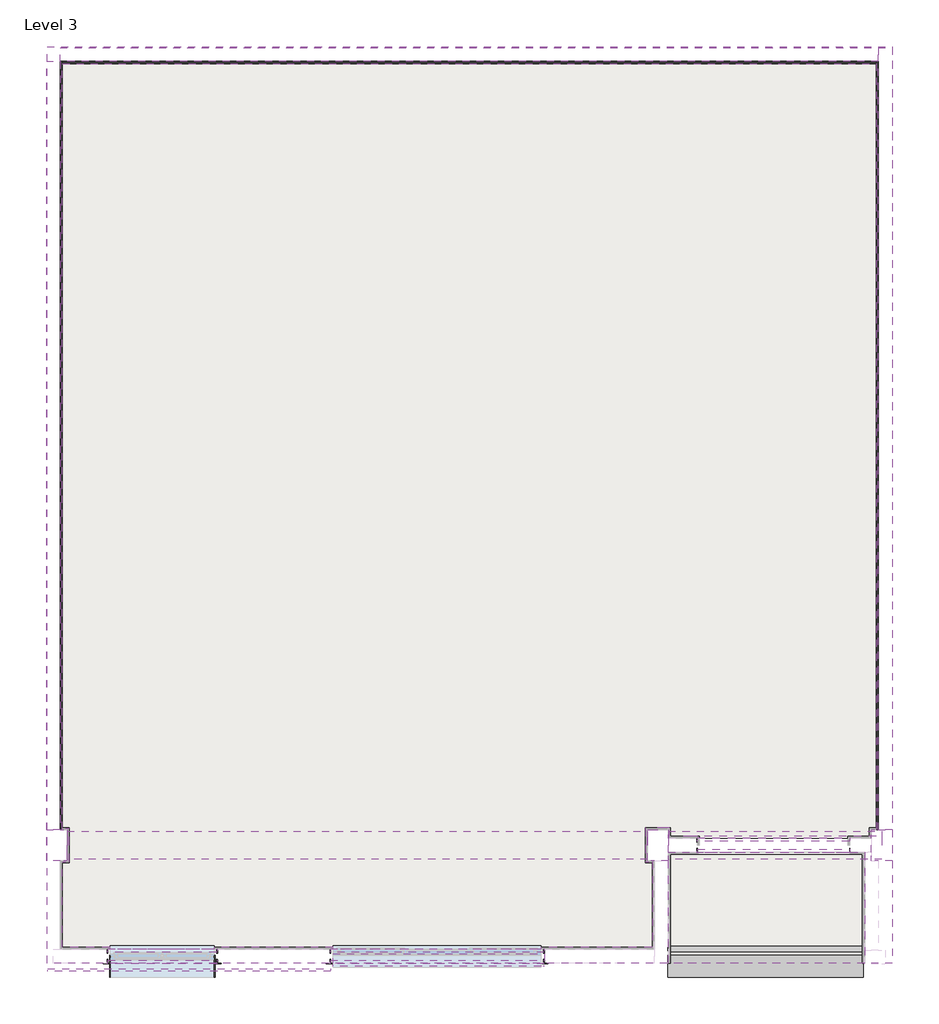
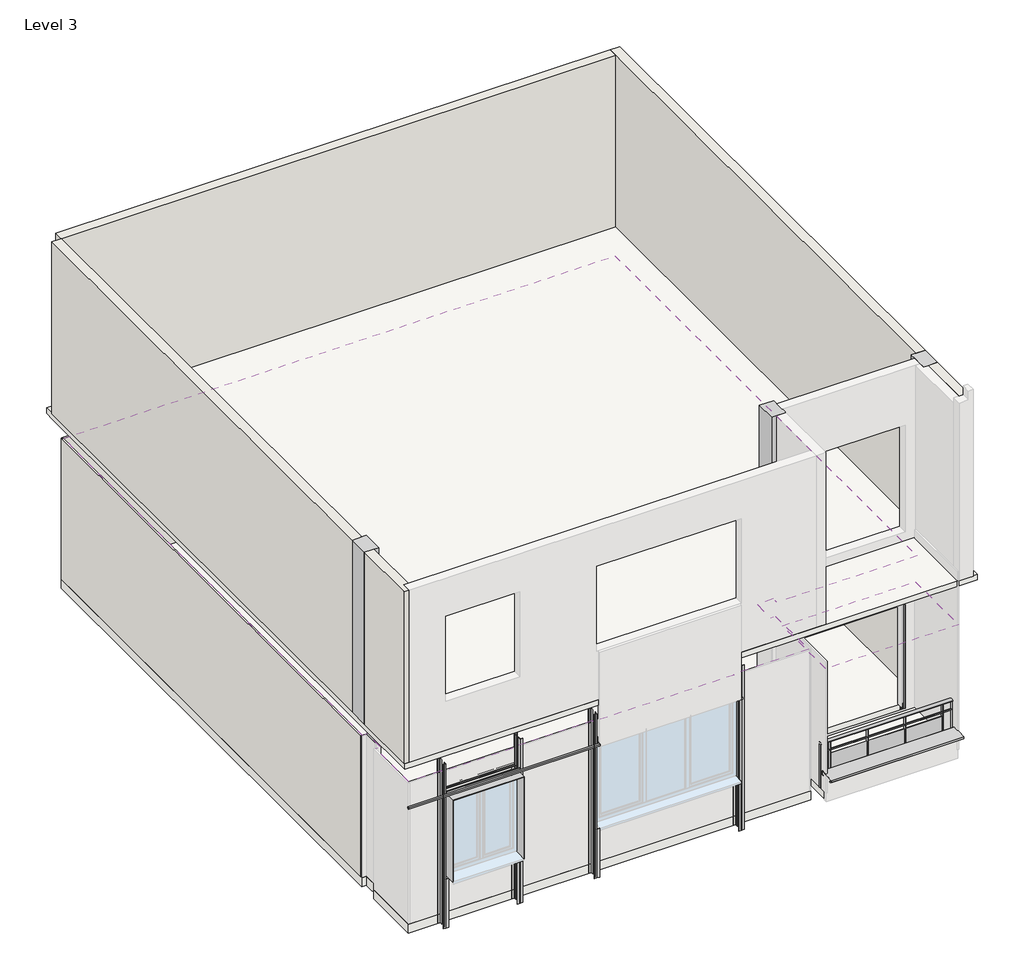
# One storey, part 2 of 2: 20 beams, 6 walls, 4 slabs, 3 columns, 2 coverings, 1 proxy, 1 railing.
"""IFC4 building model written with IfcOpenShell, lengths in millimetres."""

import ifcopenshell
import ifcopenshell.guid

model = None  # the IFC model being written
_history = None  # IfcOwnerHistory: only IFC2X3 demands one
_inside = {}  # id of a spatial element -> (the spatial element, [elements in it])
_under = {}  # id of a project, library or spatial element -> (it, [spatial elements below it])
_declared = {}  # id of a project -> (the project, [libraries it declares])
_typed = {}  # id of a type object -> (the type object, [elements of that type])
_made_of = {}  # id of a material, layer set ... -> (it, [elements and type objects made of it])


def new_model(schema):
    """Start an empty IFC model of exactly this schema.

    Asked for "IFC4X3", IfcOpenShell would pick the latest addendum, in which some entities
    have other attributes; the version numbers below select the first issue.
    IFC2X3 requires an IfcOwnerHistory on every rooted entity: one is made here for all.
    """
    global model, _history
    if schema == "IFC4X3":
        model = ifcopenshell.file(schema_version=(4, 3, 0, 0))
    else:
        model = ifcopenshell.file(schema=schema)
    _inside.clear()
    _under.clear()
    _declared.clear()
    _typed.clear()
    _made_of.clear()
    _history = None
    if model.schema == "IFC2X3":
        org = make("IfcOrganization", Name="unknown")
        user = make(
            "IfcPersonAndOrganization",
            ThePerson=make("IfcPerson", FamilyName="unknown"),
            TheOrganization=org,
        )
        app = make(
            "IfcApplication",
            ApplicationDeveloper=org,
            Version="unknown",
            ApplicationFullName="unknown",
            ApplicationIdentifier="unknown",
        )
        _history = make(
            "IfcOwnerHistory",
            OwningUser=user,
            OwningApplication=app,
            ChangeAction="ADDED",
            CreationDate=0,
        )
    return model


def make(cls, **values):
    """One entity of the class cls with the attributes given. An attribute that is None is left unset."""
    return model.create_entity(
        cls, **{name: value for name, value in values.items() if value is not None}
    )


def rooted(cls, **values):
    """An entity with a GlobalId (a new one), such as an element, a storey or a relation."""
    return make(cls, GlobalId=ifcopenshell.guid.new(), OwnerHistory=_history, **values)


def si_unit(unit_type, name, prefix=None):
    """IfcSIUnit, for example si_unit("LENGTHUNIT", "METRE", prefix="MILLI")."""
    return make("IfcSIUnit", UnitType=unit_type, Prefix=prefix, Name=name)


def assignment(units):
    """IfcUnitAssignment: the units of a project."""
    return None if units is None else make("IfcUnitAssignment", Units=units)


def point(xyz):
    """IfcCartesianPoint."""
    return None if xyz is None else make("IfcCartesianPoint", Coordinates=xyz)


def direction(xyz):
    """IfcDirection."""
    return None if xyz is None else make("IfcDirection", DirectionRatios=xyz)


def frame(location, z_axis=None, x_axis=None):
    """IfcAxis2Placement3D, a coordinate frame: its origin and axes. An axis left out is left unset."""
    return make(
        "IfcAxis2Placement3D",
        Location=point(location),
        Axis=direction(z_axis),
        RefDirection=direction(x_axis),
    )


def frame_2d(location, x_axis=None):
    """IfcAxis2Placement2D, a coordinate frame in the plane: its origin and x axis."""
    return make(
        "IfcAxis2Placement2D", Location=point(location), RefDirection=direction(x_axis)
    )


def origin():
    """The frame at (0, 0, 0) with its axes left unset."""
    return frame((0.0, 0.0, 0.0))


def origin_with_axes():
    """The frame at (0, 0, 0) with the z axis (0, 0, 1) and the x axis (1, 0, 0) written out."""
    return frame((0.0, 0.0, 0.0), z_axis=(0.0, 0.0, 1.0), x_axis=(1.0, 0.0, 0.0))


def place(relative_to, where):
    """IfcLocalPlacement: puts the frame where relative to a parent placement (None: the world)."""
    return make(
        "IfcLocalPlacement", PlacementRelTo=relative_to, RelativePlacement=where
    )


def context(
    kind, dimensions, precision=None, world=None, true_north=None, identifier=None
):
    """IfcGeometricRepresentationContext, for example the 3D "Model" context."""
    return make(
        "IfcGeometricRepresentationContext",
        ContextIdentifier=identifier,
        ContextType=kind,
        CoordinateSpaceDimension=dimensions,
        Precision=precision,
        WorldCoordinateSystem=world,
        TrueNorth=true_north,
    )


def project(units=None, contexts=None):
    """IfcProject with its units and contexts."""
    return rooted(
        "IfcProject",
        Name="project",
        RepresentationContexts=contexts,
        UnitsInContext=assignment(units),
    )


def spatial(cls, under=None, at=None, **own):
    """A site, building, storey or space (cls), placed at a placement, below another one or the project."""
    s = rooted(cls, ObjectPlacement=at, **own)
    if under is not None:
        _under.setdefault(under.id(), (under, []))[1].append(s)
    return s


def polyline(points):
    """IfcPolyline through the points."""
    return make("IfcPolyline", Points=[point(p) for p in points])


def circle_curve(where, radius):
    """IfcCircle in the frame where."""
    return make("IfcCircle", Position=where, Radius=radius)


def ellipse_curve(where, semi_axis1, semi_axis2):
    """IfcEllipse in the frame where."""
    return make(
        "IfcEllipse", Position=where, SemiAxis1=semi_axis1, SemiAxis2=semi_axis2
    )


def trimmed(basis, trim1, trim2, sense, master):
    """IfcTrimmedCurve: the piece of a basis curve between two trims."""
    return make(
        "IfcTrimmedCurve",
        BasisCurve=basis,
        Trim1=trim1,
        Trim2=trim2,
        SenseAgreement=sense,
        MasterRepresentation=master,
    )


def segment(curve, same_sense, transition):
    """IfcCompositeCurveSegment."""
    return make(
        "IfcCompositeCurveSegment",
        Transition=transition,
        SameSense=same_sense,
        ParentCurve=curve,
    )


def composite_curve(segments, self_intersect=None):
    """IfcCompositeCurve: segments joined end to end."""
    return make("IfcCompositeCurve", Segments=segments, SelfIntersect=self_intersect)


def outline(outer, holes=None, kind="AREA"):
    """IfcArbitraryClosedProfileDef: a profile drawn as a closed curve; with holes, ...WithVoids."""
    if holes is None:
        return make("IfcArbitraryClosedProfileDef", ProfileType=kind, OuterCurve=outer)
    return make(
        "IfcArbitraryProfileDefWithVoids",
        ProfileType=kind,
        OuterCurve=outer,
        InnerCurves=holes,
    )


def extrude(swept, where, along, depth):
    """IfcExtrudedAreaSolid: the profile swept, set in the frame where, extruded along a direction by depth."""
    return make(
        "IfcExtrudedAreaSolid",
        SweptArea=swept,
        Position=where,
        ExtrudedDirection=direction(along),
        Depth=depth,
    )


def faces_of(points, faces, orient=None, outer=None):
    """IfcFace entities. A face is a list of loops; a loop is a list of indices into points, from 0.

    orient and outer hold one flag for each loop. By default every Orientation is true, the
    first loop of a face is its IfcFaceOuterBound and the others are IfcFaceBound.
    """
    made = []
    for i, loops in enumerate(faces):
        bounds = []
        for j, loop in enumerate(loops):
            is_outer = j == 0 if outer is None else outer[i][j]
            bounds.append(
                make(
                    "IfcFaceOuterBound" if is_outer else "IfcFaceBound",
                    Bound=make("IfcPolyLoop", Polygon=[points[k] for k in loop]),
                    Orientation=True if orient is None else orient[i][j],
                )
            )
        made.append(make("IfcFace", Bounds=bounds))
    return made


def faceted_brep(points, faces, orient=None, outer=None, voids=None):
    """IfcFacetedBrep: a solid bounded by flat faces; with voids (closed shells), ...WithVoids."""
    shared = [point(p) for p in points]
    hull = make("IfcClosedShell", CfsFaces=faces_of(shared, faces, orient, outer))
    if voids is None:
        return make("IfcFacetedBrep", Outer=hull)
    return make(
        "IfcFacetedBrepWithVoids",
        Outer=hull,
        Voids=[
            make(cls, CfsFaces=faces_of(shared, fs, o, b)) for cls, fs, o, b in voids
        ],
    )


def shape(context_of_items, identifier, shape_type, items):
    """IfcShapeRepresentation: the items that make up one representation, for example the "Body"."""
    return make(
        "IfcShapeRepresentation",
        ContextOfItems=context_of_items,
        RepresentationIdentifier=identifier,
        RepresentationType=shape_type,
        Items=items,
    )


def source(mapping_origin, context_of_items, identifier, shape_type, items):
    """IfcRepresentationMap: a shape defined once, which mapped items show again and again."""
    return make(
        "IfcRepresentationMap",
        MappingOrigin=mapping_origin,
        MappedRepresentation=shape(context_of_items, identifier, shape_type, items),
    )


def transform(
    local_origin,
    x_axis=None,
    y_axis=None,
    z_axis=None,
    scale=None,
    scale2=None,
    scale3=None,
    uniform=True,
):
    """IfcCartesianTransformationOperator3D, or its non-uniform kind. x_axis, y_axis, z_axis: its Axis1, 2, 3."""
    if uniform:
        return make(
            "IfcCartesianTransformationOperator3D",
            Axis1=direction(x_axis),
            Axis2=direction(y_axis),
            LocalOrigin=point(local_origin),
            Scale=scale,
            Axis3=direction(z_axis),
        )
    return make(
        "IfcCartesianTransformationOperator3DnonUniform",
        Axis1=direction(x_axis),
        Axis2=direction(y_axis),
        LocalOrigin=point(local_origin),
        Scale=scale,
        Axis3=direction(z_axis),
        Scale2=scale2,
        Scale3=scale3,
    )


def mapped(mapping_source, mapping_target):
    """IfcMappedItem: shows the shape of a source again, moved by a transform."""
    return make(
        "IfcMappedItem", MappingSource=mapping_source, MappingTarget=mapping_target
    )


def made_of(thing, what):
    """Note that an element or type object is made of a material, layer set ...; save() writes the relation."""
    if what is not None:
        _made_of.setdefault(what.id(), (what, []))[1].append(thing)
    return thing


def element(
    cls,
    number,
    at=None,
    inside=None,
    cuts=None,
    type_object=None,
    material=None,
    context=None,
    identifier="Body",
    shape_type=None,
    held_by="IfcProductDefinitionShape",
    body=None,
    shapes=None,
    **own,
):
    """One element of the class cls, such as IfcWall. Its Tag is "e" and its number.

    at: its placement. inside: the storey or other place that contains it. cuts: it is an
    opening in that element (IfcRelVoidsElement). A single representation is given by context,
    identifier, shape_type and body (its items); several are given by shapes. held_by: the class
    of the entity that holds the representations. save() writes the other relations.
    """
    e = rooted(cls, Tag="e%d" % number, ObjectPlacement=at, **own)
    if body is not None:
        shapes = [shape(context, identifier, shape_type, body)]
    if shapes is not None:
        e.Representation = make(held_by, Representations=shapes)
    if inside is not None:
        _inside.setdefault(inside.id(), (inside, []))[1].append(e)
    if cuts is not None:
        rooted(
            "IfcRelVoidsElement", RelatingBuildingElement=cuts, RelatedOpeningElement=e
        )
    if type_object is not None:
        _typed.setdefault(type_object.id(), (type_object, []))[1].append(e)
    return made_of(e, material)


def aggregate(whole, parts):
    """IfcRelAggregates: a whole, such as a stair, and the parts it consists of."""
    return rooted("IfcRelAggregates", RelatingObject=whole, RelatedObjects=parts)


def save(model, path):
    """Write the relations noted so far, then the file.

    IfcRelAggregates (storeys below a building ...), IfcRelContainedInSpatialStructure (elements
    in a storey), IfcRelDefinesByType, IfcRelAssociatesMaterial and IfcRelDeclares: one each for
    every whole, place, type object, material and project.
    """
    for whole, parts in _under.values():
        aggregate(whole, parts)
    for where, things in _inside.values():
        rooted(
            "IfcRelContainedInSpatialStructure",
            RelatedElements=things,
            RelatingStructure=where,
        )
    for kind, things in _typed.values():
        rooted("IfcRelDefinesByType", RelatedObjects=things, RelatingType=kind)
    for what, things in _made_of.values():
        rooted("IfcRelAssociatesMaterial", RelatedObjects=things, RelatingMaterial=what)
    for by, libraries in _declared.values():
        rooted("IfcRelDeclares", RelatingContext=by, RelatedDefinitions=libraries)
    model.write(path)


def plane_surface(at):
    """IfcPlane: the flat surface through the origin of the frame at, square to its z axis."""
    return make("IfcPlane", Position=at)


def extruded_surface(curve, direction_of_extrusion, depth):
    """IfcSurfaceOfLinearExtrusion: the curve pushed along a direction by depth."""
    return make(
        "IfcSurfaceOfLinearExtrusion",
        SweptCurve=make("IfcArbitraryOpenProfileDef", ProfileType="CURVE", Curve=curve),
        ExtrudedDirection=direction(direction_of_extrusion),
        Depth=depth,
    )


def advanced_brep(points, edges, surfaces, faces):
    """IfcAdvancedBrep: a solid bounded by faces that lie on surfaces and meet in shared edges.

    An edge is (start, end): straight between two places in points (the first is 0);
    or (start, end, curve); or (start, end, curve, False) where it runs against its curve.
    A face is (place in surfaces, loops), or (place, loops, False) where it looks against
    its surface's normal. A loop lists edges by number (the first is 1), with a minus sign
    where the edge is run from its end to its start. The first loop is the outer one.
    """
    corners = [point(p) for p in points]
    vertices = [make("IfcVertexPoint", VertexGeometry=c) for c in corners]
    made = []
    for start, end, *more in edges:
        made.append(
            make(
                "IfcEdgeCurve",
                EdgeStart=vertices[start],
                EdgeEnd=vertices[end],
                EdgeGeometry=more[0] if more else make("IfcPolyline", Points=[corners[start], corners[end]]),
                SameSense=more[1] if len(more) > 1 else True,
            )
        )
    hull = []
    for where, loops, *sense in faces:
        bounds = []
        for j, loop in enumerate(loops):
            ring = [make("IfcOrientedEdge", EdgeElement=made[abs(k) - 1], Orientation=k > 0) for k in loop]
            bounds.append(
                make(
                    "IfcFaceOuterBound" if j == 0 else "IfcFaceBound",
                    Bound=make("IfcEdgeLoop", EdgeList=ring),
                    Orientation=True,
                )
            )
        hull.append(make("IfcAdvancedFace", Bounds=bounds, FaceSurface=surfaces[where], SameSense=sense[0] if sense else True))
    return make("IfcAdvancedBrep", Outer=make("IfcClosedShell", CfsFaces=hull))


def bz1_40_profile_bz1_40_profile_67b9773f(model_context):
    return source(origin(), model_context, "Body", "SweptSolid", [
        extrude(outline(polyline([(-20.0, 20.0), (20.0, 20.0), (20.0, -20.0), (-20.0, -20.0), (-20.0, 20.0)]), holes=[polyline([(-16.0, 16.0), (-16.0, -16.0), (16.0, -16.0), (16.0, 16.0), (-16.0, 16.0)])]), frame((-2037.6671988, 0.0, 0.0), z_axis=(1.0, 0.0, 0.0), x_axis=(0.0, 1.0, 0.0)), (0.0, 0.0, 1.0), 4075.3343977),
    ])


def bz1_l_profile_t01_17f12a1d(model_context):
    return source(origin(), model_context, "Body", "SweptSolid", [
        extrude(outline(composite_curve([segment(polyline([(41.5, 0.0), (7.0, 0.0)]), True, "CONTINUOUS"), segment(trimmed(circle_curve(frame_2d((7.0, -7.0)), 7.0), [point((7.0, 0.0))], [point((0.0, -7.0))], True, "CARTESIAN"), True, "CONTINUOUS"), segment(polyline([(0.0, -7.0), (0.0, -41.5)]), True, "CONTINUOUS"), segment(trimmed(circle_curve(frame_2d((-3.5, -41.5)), 3.5), [point((0.0, -41.5))], [point((-3.5, -45.0))], False, "CARTESIAN"), True, "CONTINUOUS"), segment(polyline([(-3.5, -45.0), (-5.0, -45.0), (-5.0, 5.0), (45.0, 5.0), (45.0, 3.5)]), True, "CONTINUOUS"), segment(trimmed(circle_curve(frame_2d((41.5, 3.5)), 3.5), [point((45.0, 3.5))], [point((41.5, 0.0))], False, "CARTESIAN"), True, "CONTINUOUS")], self_intersect=False)), frame((0.0, 0.0, 0.0), z_axis=(1.0, 0.0, 0.0), x_axis=(0.0, 1.0, 0.0)), (0.0, 0.0, 1.0), 3080.0),
    ])


def bz1_l_profile_t01_85f23635(model_context):
    return source(origin(), model_context, "Body", "SweptSolid", [
        extrude(outline(composite_curve([segment(trimmed(circle_curve(frame_2d((-41.5, 3.5)), 3.5), [point((-41.5, 0.0))], [point((-45.0, 3.5))], False, "CARTESIAN"), True, "CONTINUOUS"), segment(polyline([(-45.0, 3.5), (-45.0, 5.0), (5.0, 5.0), (5.0, -45.0), (3.5, -45.0)]), True, "CONTINUOUS"), segment(trimmed(circle_curve(frame_2d((3.5, -41.5)), 3.5), [point((3.5, -45.0))], [point((0.0, -41.5))], False, "CARTESIAN"), True, "CONTINUOUS"), segment(polyline([(0.0, -41.5), (0.0, -7.0)]), True, "CONTINUOUS"), segment(trimmed(circle_curve(frame_2d((-7.0, -7.0)), 7.0), [point((0.0, -7.0))], [point((-7.0, 0.0))], True, "CARTESIAN"), True, "CONTINUOUS"), segment(polyline([(-7.0, 0.0), (-41.5, 0.0)]), True, "CONTINUOUS")], self_intersect=False)), frame((0.0, 0.0, 0.0), z_axis=(1.0, 0.0, 0.0), x_axis=(0.0, 1.0, 0.0)), (0.0, 0.0, 1.0), 3080.0),
    ])


def bz1_l_profile_t01_c9825e95(model_context):
    return source(origin(), model_context, "Body", "SweptSolid", [
        extrude(outline(composite_curve([segment(trimmed(circle_curve(frame_2d((-41.5, 3.5)), 3.5), [point((-41.5, 0.0))], [point((-45.0, 3.5))], False, "CARTESIAN"), True, "CONTINUOUS"), segment(polyline([(-45.0, 3.5), (-45.0, 5.0), (5.0, 5.0), (5.0, -45.0), (3.5, -45.0)]), True, "CONTINUOUS"), segment(trimmed(circle_curve(frame_2d((3.5, -41.5)), 3.5), [point((3.5, -45.0))], [point((0.0, -41.5))], False, "CARTESIAN"), True, "CONTINUOUS"), segment(polyline([(0.0, -41.5), (0.0, -7.0)]), True, "CONTINUOUS"), segment(trimmed(circle_curve(frame_2d((-7.0, -7.0)), 7.0), [point((0.0, -7.0))], [point((-7.0, 0.0))], True, "CARTESIAN"), True, "CONTINUOUS"), segment(polyline([(-7.0, 0.0), (-41.5, 0.0)]), True, "CONTINUOUS")], self_intersect=False)), frame((0.0, 0.0, 0.0), z_axis=(1.0, 0.0, 0.0), x_axis=(0.0, 1.0, 0.0)), (0.0, 0.0, 1.0), 1580.0),
    ])


def bz1_l_profile_t01_ad5e237f(model_context):
    return source(origin(), model_context, "Body", "SweptSolid", [
        extrude(outline(composite_curve([segment(polyline([(41.5, 0.0), (7.0, 0.0)]), True, "CONTINUOUS"), segment(trimmed(circle_curve(frame_2d((7.0, -7.0)), 7.0), [point((7.0, 0.0))], [point((0.0, -7.0))], True, "CARTESIAN"), True, "CONTINUOUS"), segment(polyline([(0.0, -7.0), (0.0, -41.5)]), True, "CONTINUOUS"), segment(trimmed(circle_curve(frame_2d((-3.5, -41.5)), 3.5), [point((0.0, -41.5))], [point((-3.5, -45.0))], False, "CARTESIAN"), True, "CONTINUOUS"), segment(polyline([(-3.5, -45.0), (-5.0, -45.0), (-5.0, 5.0), (45.0, 5.0), (45.0, 3.5)]), True, "CONTINUOUS"), segment(trimmed(circle_curve(frame_2d((41.5, 3.5)), 3.5), [point((45.0, 3.5))], [point((41.5, 0.0))], False, "CARTESIAN"), True, "CONTINUOUS")], self_intersect=False)), frame((0.0, 0.0, 0.0), z_axis=(1.0, 0.0, 0.0), x_axis=(0.0, 1.0, 0.0)), (0.0, 0.0, 1.0), 1580.0),
    ])


def bz1_l_profile_t01_9d23476b(model_context):
    return source(origin(), model_context, "Body", "SweptSolid", [
        extrude(outline(composite_curve([segment(trimmed(circle_curve(frame_2d((-41.5, 3.5)), 3.5), [point((-41.5, 0.0))], [point((-45.0, 3.5))], False, "CARTESIAN"), True, "CONTINUOUS"), segment(polyline([(-45.0, 3.5), (-45.0, 5.0), (5.0, 5.0), (5.0, -45.0), (3.5, -45.0)]), True, "CONTINUOUS"), segment(trimmed(circle_curve(frame_2d((3.5, -41.5)), 3.5), [point((3.5, -45.0))], [point((0.0, -41.5))], False, "CARTESIAN"), True, "CONTINUOUS"), segment(polyline([(0.0, -41.5), (0.0, -7.0)]), True, "CONTINUOUS"), segment(trimmed(circle_curve(frame_2d((-7.0, -7.0)), 7.0), [point((0.0, -7.0))], [point((-7.0, 0.0))], True, "CARTESIAN"), True, "CONTINUOUS"), segment(polyline([(-7.0, 0.0), (-41.5, 0.0)]), True, "CONTINUOUS")], self_intersect=False)), frame((0.0, 0.0, 0.0), z_axis=(1.0, 0.0, 0.0), x_axis=(0.0, 1.0, 0.0)), (0.0, 0.0, 1.0), 2200.0),
    ])


def bz1_l_profile_t01_5d592bfc(model_context):
    return source(origin(), model_context, "Body", "SweptSolid", [
        extrude(outline(composite_curve([segment(polyline([(41.5, 0.0), (7.0, 0.0)]), True, "CONTINUOUS"), segment(trimmed(circle_curve(frame_2d((7.0, -7.0)), 7.0), [point((7.0, 0.0))], [point((0.0, -7.0))], True, "CARTESIAN"), True, "CONTINUOUS"), segment(polyline([(0.0, -7.0), (0.0, -41.5)]), True, "CONTINUOUS"), segment(trimmed(circle_curve(frame_2d((-3.5, -41.5)), 3.5), [point((0.0, -41.5))], [point((-3.5, -45.0))], False, "CARTESIAN"), True, "CONTINUOUS"), segment(polyline([(-3.5, -45.0), (-5.0, -45.0), (-5.0, 5.0), (45.0, 5.0), (45.0, 3.5)]), True, "CONTINUOUS"), segment(trimmed(circle_curve(frame_2d((41.5, 3.5)), 3.5), [point((45.0, 3.5))], [point((41.5, 0.0))], False, "CARTESIAN"), True, "CONTINUOUS")], self_intersect=False)), frame((0.0, 0.0, 0.0), z_axis=(1.0, 0.0, 0.0), x_axis=(0.0, 1.0, 0.0)), (0.0, 0.0, 1.0), 2200.0),
    ])


def bz1_wall_post_200_end_863f2b4e(model_context):
    return source(origin(), model_context, "Body", "SweptSolid", [
        extrude(outline(composite_curve([segment(polyline([(0.0, 45.0), (0.0, 105.0), (60.0, 105.0), (60.0, 103.0)]), True, "CONTINUOUS"), segment(trimmed(circle_curve(frame_2d((57.0, 103.0)), 3.0), [point((60.0, 103.0))], [point((57.0, 100.0))], False, "CARTESIAN"), True, "CONTINUOUS"), segment(polyline([(57.0, 100.0), (10.0, 100.0)]), True, "CONTINUOUS"), segment(trimmed(circle_curve(frame_2d((10.0, 95.0)), 5.0), [point((10.0, 100.0))], [point((5.0, 95.0))], True, "CARTESIAN"), True, "CONTINUOUS"), segment(polyline([(5.0, 95.0), (5.0, 48.0)]), True, "CONTINUOUS"), segment(trimmed(circle_curve(frame_2d((2.0, 48.0)), 3.0), [point((5.0, 48.0))], [point((2.0, 45.0))], False, "CARTESIAN"), True, "CONTINUOUS"), segment(polyline([(2.0, 45.0), (0.0, 45.0)]), True, "CONTINUOUS")], self_intersect=False)), origin_with_axes(), (0.0, 0.0, 1.0), 3700.0),
        extrude(outline(composite_curve([segment(polyline([(0.0, -45.0), (2.0, -45.0)]), True, "CONTINUOUS"), segment(trimmed(circle_curve(frame_2d((2.0, -48.0)), 3.0), [point((2.0, -45.0))], [point((5.0, -48.0))], False, "CARTESIAN"), True, "CONTINUOUS"), segment(polyline([(5.0, -48.0), (5.0, -95.0)]), True, "CONTINUOUS"), segment(trimmed(circle_curve(frame_2d((10.0, -95.0)), 5.0), [point((5.0, -95.0))], [point((10.0, -100.0))], True, "CARTESIAN"), True, "CONTINUOUS"), segment(polyline([(10.0, -100.0), (57.0, -100.0)]), True, "CONTINUOUS"), segment(trimmed(circle_curve(frame_2d((57.0, -103.0)), 3.0), [point((57.0, -100.0))], [point((60.0, -103.0))], False, "CARTESIAN"), True, "CONTINUOUS"), segment(polyline([(60.0, -103.0), (60.0, -105.0), (0.0, -105.0), (0.0, -45.0)]), True, "CONTINUOUS")], self_intersect=False)), origin_with_axes(), (0.0, 0.0, 1.0), 3700.0),
    ])


def bz1_wall_post_200_end_6934bf96(model_context):
    return source(origin(), model_context, "Body", "SweptSolid", [
        extrude(outline(composite_curve([segment(polyline([(0.0, -45.0), (2.0, -45.0)]), True, "CONTINUOUS"), segment(trimmed(circle_curve(frame_2d((2.0, -48.0)), 3.0), [point((2.0, -45.0))], [point((5.0, -48.0))], False, "CARTESIAN"), True, "CONTINUOUS"), segment(polyline([(5.0, -48.0), (5.0, -95.0)]), True, "CONTINUOUS"), segment(trimmed(circle_curve(frame_2d((10.0, -95.0)), 5.0), [point((5.0, -95.0))], [point((10.0, -100.0))], True, "CARTESIAN"), True, "CONTINUOUS"), segment(polyline([(10.0, -100.0), (57.0, -100.0)]), True, "CONTINUOUS"), segment(trimmed(circle_curve(frame_2d((57.0, -103.0)), 3.0), [point((57.0, -100.0))], [point((60.0, -103.0))], False, "CARTESIAN"), True, "CONTINUOUS"), segment(polyline([(60.0, -103.0), (60.0, -105.0), (0.0, -105.0), (0.0, -45.0)]), True, "CONTINUOUS")], self_intersect=False)), origin_with_axes(), (0.0, 0.0, 1.0), 1100.0),
        extrude(outline(composite_curve([segment(polyline([(0.0, 45.0), (0.0, 105.0), (60.0, 105.0), (60.0, 103.0)]), True, "CONTINUOUS"), segment(trimmed(circle_curve(frame_2d((57.0, 103.0)), 3.0), [point((60.0, 103.0))], [point((57.0, 100.0))], False, "CARTESIAN"), True, "CONTINUOUS"), segment(polyline([(57.0, 100.0), (10.0, 100.0)]), True, "CONTINUOUS"), segment(trimmed(circle_curve(frame_2d((10.0, 95.0)), 5.0), [point((10.0, 100.0))], [point((5.0, 95.0))], True, "CARTESIAN"), True, "CONTINUOUS"), segment(polyline([(5.0, 95.0), (5.0, 48.0)]), True, "CONTINUOUS"), segment(trimmed(circle_curve(frame_2d((2.0, 48.0)), 3.0), [point((5.0, 48.0))], [point((2.0, 45.0))], False, "CARTESIAN"), True, "CONTINUOUS"), segment(polyline([(2.0, 45.0), (0.0, 45.0)]), True, "CONTINUOUS")], self_intersect=False)), origin_with_axes(), (0.0, 0.0, 1.0), 1100.0),
    ])


def bz1_wall_post_200_end_fdf059dd(model_context):
    return source(origin(), model_context, "Body", "SweptSolid", [
        extrude(outline(composite_curve([segment(polyline([(0.0, 45.0), (0.0, 105.0), (60.0, 105.0), (60.0, 103.0)]), True, "CONTINUOUS"), segment(trimmed(circle_curve(frame_2d((57.0, 103.0)), 3.0), [point((60.0, 103.0))], [point((57.0, 100.0))], False, "CARTESIAN"), True, "CONTINUOUS"), segment(polyline([(57.0, 100.0), (10.0, 100.0)]), True, "CONTINUOUS"), segment(trimmed(circle_curve(frame_2d((10.0, 95.0)), 5.0), [point((10.0, 100.0))], [point((5.0, 95.0))], True, "CARTESIAN"), True, "CONTINUOUS"), segment(polyline([(5.0, 95.0), (5.0, 48.0)]), True, "CONTINUOUS"), segment(trimmed(circle_curve(frame_2d((2.0, 48.0)), 3.0), [point((5.0, 48.0))], [point((2.0, 45.0))], False, "CARTESIAN"), True, "CONTINUOUS"), segment(polyline([(2.0, 45.0), (0.0, 45.0)]), True, "CONTINUOUS")], self_intersect=False)), origin_with_axes(), (0.0, 0.0, 1.0), 1100.0),
        extrude(outline(composite_curve([segment(polyline([(0.0, -45.0), (2.0, -45.0)]), True, "CONTINUOUS"), segment(trimmed(circle_curve(frame_2d((2.0, -48.0)), 3.0), [point((2.0, -45.0))], [point((5.0, -48.0))], False, "CARTESIAN"), True, "CONTINUOUS"), segment(polyline([(5.0, -48.0), (5.0, -95.0)]), True, "CONTINUOUS"), segment(trimmed(circle_curve(frame_2d((10.0, -95.0)), 5.0), [point((5.0, -95.0))], [point((10.0, -100.0))], True, "CARTESIAN"), True, "CONTINUOUS"), segment(polyline([(10.0, -100.0), (57.0, -100.0)]), True, "CONTINUOUS"), segment(trimmed(circle_curve(frame_2d((57.0, -103.0)), 3.0), [point((57.0, -100.0))], [point((60.0, -103.0))], False, "CARTESIAN"), True, "CONTINUOUS"), segment(polyline([(60.0, -103.0), (60.0, -105.0), (0.0, -105.0), (0.0, -45.0)]), True, "CONTINUOUS")], self_intersect=False)), origin_with_axes(), (0.0, 0.0, 1.0), 1100.0),
    ])


def win_flashing_win_flashing_053a81bb(model_context):
    return source(origin(), model_context, "Body", "SweptSolid", [
        extrude(outline(polyline([(8940.0, -1790.5666589), (8940.0, -1780.5666589), (10780.0, -1780.5666589), (10780.0, -3300.5666589), (8940.0, -3300.5666589), (8940.0, -3290.5666589), (10770.0, -3290.5666589), (10770.0, -1790.5666589), (8940.0, -1790.5666589)])), frame((0.0, -5904.4647185, 0.0), z_axis=(0.0, 1.0, 0.0), x_axis=(0.0, 0.0, 1.0)), (0.0, 0.0, 1.0), 315.0),
    ])


model = new_model("IFC4")

# Units and contexts
model_context = context("Model", 3, world=origin())
ifc_project = project(units=[si_unit("LENGTHUNIT", "METRE", prefix="MILLI")], contexts=[model_context])

# Site, building, storey
site = spatial("IfcSite", under=ifc_project)
building = spatial("IfcBuilding", under=site)
storey = spatial("IfcBuildingStorey", under=building, Name="Level 3", Elevation=8000.0)

# Beams
placement = place(None, origin())
bz1_40_profile_bz1_40_profile_shape = bz1_40_profile_bz1_40_profile_67b9773f(model_context)
element("IfcBeam", 1, ObjectType="BZ1-40_Profile : BZ1-40_Profile", at=placement, inside=storey, context=model_context, shape_type="MappedRepresentation", body=[
    mapped(bz1_40_profile_bz1_40_profile_shape, transform((-2152.89946, -5799.4647185, 10860.0), x_axis=(1.0, 0.0, 0.0), y_axis=(0.0, 1.0, 0.0), z_axis=(0.0, 0.0, 1.0))),
])
bz1_l_profile_t01_shape = bz1_l_profile_t01_17f12a1d(model_context)
element("IfcBeam", 2, ObjectType="BZ1_L Profile : T01", at=placement, inside=storey, context=model_context, shape_type="MappedRepresentation", body=[
    mapped(bz1_l_profile_t01_shape, transform((2964.4333411, -5500.9647185, 10810.0), x_axis=(-1.0, 0.0, 0.0), y_axis=(0.0, 0.0, 1.0), z_axis=(0.0, 1.0, 0.0))),
])
bz1_l_profile_t01_2_shape = bz1_l_profile_t01_85f23635(model_context)
element("IfcBeam", 3, ObjectType="BZ1_L Profile : T01", at=placement, inside=storey, context=model_context, shape_type="MappedRepresentation", body=[
    mapped(bz1_l_profile_t01_2_shape, transform((-115.5666589, -5700.9647185, 10810.0), x_axis=(1.0, 0.0, 0.0), y_axis=(0.0, -1.0, 0.0), z_axis=(0.0, 0.0, -1.0))),
])
bz1_l_profile_t01_3_shape = bz1_l_profile_t01_c9825e95(model_context)
element("IfcBeam", 4, ObjectType="BZ1_L Profile : T01", at=placement, inside=storey, context=model_context, shape_type="MappedRepresentation", body=[
    mapped(bz1_l_profile_t01_3_shape, transform((-3330.5666589, -5700.9647185, 10810.0), x_axis=(1.0, 0.0, 0.0), y_axis=(0.0, -1.0, 0.0), z_axis=(0.0, 0.0, -1.0))),
])
bz1_l_profile_t01_4_shape = bz1_l_profile_t01_ad5e237f(model_context)
element("IfcBeam", 5, ObjectType="BZ1_L Profile : T01", at=placement, inside=storey, context=model_context, shape_type="MappedRepresentation", body=[
    mapped(bz1_l_profile_t01_4_shape, transform((-3330.5666589, -5500.9647185, 10810.0), x_axis=(1.0, 0.0, 0.0), y_axis=(0.0, -1.0, 0.0), z_axis=(0.0, 0.0, -1.0))),
])
bz1_l_profile_t01_5_shape = bz1_l_profile_t01_9d23476b(model_context)
element("IfcBeam", 6, ObjectType="BZ1_L Profile : T01", at=placement, inside=storey, context=model_context, shape_type="MappedRepresentation", body=[
    mapped(bz1_l_profile_t01_5_shape, transform((5174.4333411, -4100.9647185, 10405.0), x_axis=(1.0, 0.0, 0.0), y_axis=(0.0, -1.0, 0.0), z_axis=(0.0, 0.0, -1.0))),
])
bz1_l_profile_t01_6_shape = bz1_l_profile_t01_5d592bfc(model_context)
element("IfcBeam", 7, ObjectType="BZ1_L Profile : T01", at=placement, inside=storey, context=model_context, shape_type="MappedRepresentation", body=[
    mapped(bz1_l_profile_t01_6_shape, transform((5174.4333411, -3900.9647185, 10405.0), x_axis=(1.0, 0.0, 0.0), y_axis=(0.0, -1.0, 0.0), z_axis=(0.0, 0.0, -1.0))),
])
bz1_wall_post_200_end_shape = bz1_wall_post_200_end_863f2b4e(model_context)
element("IfcBeam", 8, ObjectType="BZ1_Wall post : 200 END", at=placement, inside=storey, context=model_context, shape_type="MappedRepresentation", body=[
    mapped(bz1_wall_post_200_end_shape, transform((-1750.5666589, -5600.9647185, 7800.0), x_axis=(1.0, 0.0, 0.0), y_axis=(0.0, 1.0, 0.0), z_axis=(0.0, 0.0, 1.0))),
])
element("IfcBeam", 9, ObjectType="BZ1_Wall post : 200 END", at=placement, inside=storey, context=model_context, shape_type="MappedRepresentation", body=[
    mapped(bz1_wall_post_200_end_shape, transform((-3330.5666589, -5600.9647185, 7800.0), x_axis=(-1.0, 0.0, 0.0), y_axis=(0.0, -1.0, 0.0), z_axis=(0.0, 0.0, 1.0))),
])
element("IfcBeam", 10, ObjectType="BZ1_Wall post : 200 END", at=placement, inside=storey, context=model_context, shape_type="MappedRepresentation", body=[
    mapped(bz1_wall_post_200_end_shape, transform((2964.4333411, -5600.9647185, 7800.0), x_axis=(1.0, 0.0, 0.0), y_axis=(0.0, 1.0, 0.0), z_axis=(0.0, 0.0, 1.0))),
])
element("IfcBeam", 11, ObjectType="BZ1_Wall post : 200 END", at=placement, inside=storey, context=model_context, shape_type="MappedRepresentation", body=[
    mapped(bz1_wall_post_200_end_shape, transform((-115.5666589, -5600.9647185, 7800.0), x_axis=(-1.0, 0.0, 0.0), y_axis=(0.0, -1.0, 0.0), z_axis=(0.0, 0.0, 1.0))),
])
element("IfcBeam", 12, ObjectType="BZ1_Wall post : 200 END", at=placement, inside=storey, context=model_context, shape_type="MappedRepresentation", body=[
    mapped(bz1_wall_post_200_end_shape, transform((5174.4333411, -4000.9647185, 8000.0), x_axis=(-1.0, 0.0, 0.0), y_axis=(0.0, -1.0, 0.0), z_axis=(0.0, 0.0, 1.0))),
])
element("IfcBeam", 13, ObjectType="BZ1_Wall post : 200 END", at=placement, inside=storey, context=model_context, shape_type="MappedRepresentation", body=[
    mapped(bz1_wall_post_200_end_shape, transform((7374.4333411, -4000.9647185, 7800.0), x_axis=(1.0, 0.0, 0.0), y_axis=(0.0, 1.0, 0.0), z_axis=(0.0, 0.0, 1.0))),
])
bz1_wall_post_200_end_2_shape = bz1_wall_post_200_end_6934bf96(model_context)
element("IfcBeam", 14, ObjectType="BZ1_Wall post : 200 END", at=placement, inside=storey, context=model_context, shape_type="MappedRepresentation", body=[
    mapped(bz1_wall_post_200_end_2_shape, transform((-115.5666589, -5600.9647185, 7800.0), x_axis=(1.0, 0.0, 0.0), y_axis=(0.0, 1.0, 0.0), z_axis=(0.0, 0.0, 1.0))),
])
element("IfcBeam", 15, ObjectType="BZ1_Wall post : 200 END", at=placement, inside=storey, context=model_context, shape_type="MappedRepresentation", body=[
    mapped(bz1_wall_post_200_end_2_shape, transform((-3330.5666589, -5600.9647185, 7800.0), x_axis=(1.0, 0.0, 0.0), y_axis=(0.0, 1.0, 0.0), z_axis=(0.0, 0.0, 1.0))),
])
bz1_wall_post_200_end_3_shape = bz1_wall_post_200_end_fdf059dd(model_context)
element("IfcBeam", 16, ObjectType="BZ1_Wall post : 200 END", at=placement, inside=storey, context=model_context, shape_type="MappedRepresentation", body=[
    mapped(bz1_wall_post_200_end_3_shape, transform((2964.4333411, -5600.9647185, 7800.0), x_axis=(-1.0, 0.0, 0.0), y_axis=(0.0, -1.0, 0.0), z_axis=(0.0, 0.0, 1.0))),
])
element("IfcBeam", 17, ObjectType="BZ1_Wall post : 200 END", at=placement, inside=storey, context=model_context, shape_type="MappedRepresentation", body=[
    mapped(bz1_wall_post_200_end_3_shape, transform((-1750.5666589, -5600.9647185, 7800.0), x_axis=(-1.0, 0.0, 0.0), y_axis=(0.0, -1.0, 0.0), z_axis=(0.0, 0.0, 1.0))),
])
element("IfcBeam", 18, ObjectType="M_Concrete-Rectangular Beam : 400 x 600mm", at=placement, inside=storey, context=model_context, shape_type="SweptSolid", body=[
    extrude(outline(polyline([(4459.4333411, -3800.9647185), (4459.4333411, -4200.9647185), (-3910.5666589, -4200.9647185), (-3910.5666589, -3800.9647185), (4459.4333411, -3800.9647185)])), frame((0.0, 0.0, 11200.0), z_axis=(0.0, 0.0, 1.0), x_axis=(1.0, 0.0, 0.0)), (0.0, 0.0, 1.0), 470.0),
])
element("IfcBeam", 19, ObjectType="M_Concrete-Rectangular Beam : 400 x 600mm", at=placement, inside=storey, context=model_context, shape_type="Brep", body=[
    faceted_brep([(7839.4333411, -4200.9647185, 11200.0), (7839.4333411, -3800.9647185, 11200.0), (7839.4333411, -3800.9647185, 11670.0), (7839.4333411, -4200.9647185, 11670.0), (4759.4333411, -4200.9647185, 11200.0), (4759.4333411, -4200.9647185, 11670.0), (4759.4333411, -4100.9647185, 11200.0), (4759.4333411, -3900.9647185, 11200.0), (4759.4333411, -3800.9647185, 11200.0), (4759.4333411, -3800.9647185, 11670.0)], [[[0, 1, 2, 3]], [[4, 0, 3, 5]], [[1, 0, 4, 6, 7, 8]], [[1, 8, 9, 2]], [[3, 2, 9, 5]], [[8, 7, 6, 4, 5, 9]]]),
])
win_flashing_win_flashing_shape = win_flashing_win_flashing_053a81bb(model_context)
element("IfcBeam", 20, ObjectType="win-flashing : win-flashing", at=placement, inside=storey, context=model_context, shape_type="MappedRepresentation", body=[
    mapped(win_flashing_win_flashing_shape, transform((0.0, 0.0, 0.0), x_axis=(1.0, 0.0, 0.0), y_axis=(0.0, 1.0, 0.0), z_axis=(0.0, 0.0, 1.0))),
])

# Proxy
element("IfcBuildingElementProxy", 21, Name="Wall Sweeps", at=placement, inside=storey, context=model_context, shape_type="SweptSolid", body=[
    extrude(outline(polyline([(-5906.4010883, 8409.8257), (-5584.774646, 8439.7589035), (-5584.774646, 8353.8282212), (-5584.774646, 8341.454394), (-5614.774646, 8341.454394), (-5614.774646, 8355.8282212), (-5612.774646, 8355.8282212), (-5612.774646, 8343.454394), (-5586.774646, 8343.454394), (-5586.774646, 8437.564124), (-5904.4010883, 8408.0031934), (-5904.4010883, 8363.454394), (-5864.4010883, 8363.454394), (-5864.4010883, 8341.454394), (-5866.4010883, 8341.454394), (-5866.4010883, 8361.454394), (-5906.4010883, 8361.454394), (-5906.4010883, 8409.8257)])), frame((4754.9516805, 0.0, 0.0), z_axis=(1.0, 0.0, 0.0), x_axis=(0.0, 1.0, 0.0)), (0.0, 0.0, 1.0), 2819.4763902),
])

# Columns
element("IfcColumn", 22, ObjectType="M_Concrete-Rectangular-Column : 300 x 450mm", at=placement, inside=storey, context=model_context, shape_type="Brep", body=[
    faceted_brep([(4759.4333411, -3775.9647185, 11800.0), (4759.4333411, -4225.9647185, 11800.0), (4559.4333411, -4225.9647185, 11800.0), (4459.4333411, -4225.9647185, 11800.0), (4459.4333411, -3775.9647185, 11800.0), (4759.4333411, -3775.9647185, 15670.0), (4759.4333411, -3800.9647185, 15670.0), (4759.4333411, -4200.9647185, 15670.0), (4759.4333411, -4225.9647185, 15670.0), (4559.4333411, -4225.9647185, 15670.0), (4459.4333411, -4225.9647185, 15670.0), (4459.4333411, -3775.9647185, 15670.0)], [[[0, 1, 2, 3, 4]], [[5, 6, 7, 8, 1, 0]], [[8, 9, 10, 3, 2, 1]], [[10, 11, 4, 3]], [[11, 5, 0, 4]], [[5, 11, 10, 9, 8, 7, 6]]]),
])
element("IfcColumn", 23, ObjectType="M_Concrete-Rectangular-Column : 300 x 450mm", at=placement, inside=storey, context=model_context, shape_type="Brep", body=[
    faceted_brep([(-3910.5666589, -3775.9647185, 11800.0), (-3910.5666589, -4225.9647185, 11800.0), (-4010.5666589, -4225.9647185, 11800.0), (-4210.5666589, -4225.9647185, 11800.0), (-4210.5666589, -3775.9647185, 11800.0), (-4010.5666589, -3775.9647185, 11800.0), (-3910.5666589, -3775.9647185, 15670.0), (-3910.5666589, -3800.9647185, 15670.0), (-3910.5666589, -4200.9647185, 15670.0), (-3910.5666589, -4225.9647185, 15670.0), (-4010.5666589, -4225.9647185, 15670.0), (-4210.5666589, -4225.9647185, 15670.0), (-4210.5666589, -3775.9647185, 15670.0), (-4010.5666589, -3775.9647185, 15670.0)], [[[0, 1, 2, 3, 4, 5]], [[6, 7, 8, 9, 1, 0]], [[9, 10, 11, 3, 2, 1]], [[11, 12, 4, 3]], [[12, 13, 6, 0, 5, 4]], [[6, 13, 12, 11, 10, 9, 8, 7]]]),
])
element("IfcColumn", 24, ObjectType="M_Concrete-Rectangular-Column : 300 x 450mm", at=placement, inside=storey, context=model_context, shape_type="Brep", body=[
    faceted_brep([(7989.4333411, -3775.9647185, 11800.0), (7989.4333411, -4225.9647185, 11800.0), (7789.4333411, -4225.9647185, 11800.0), (7689.4333411, -4225.9647185, 11800.0), (7689.4333411, -4100.9647185, 11800.0), (7689.4333411, -3900.9647185, 11800.0), (7689.4333411, -3775.9647185, 11800.0), (7789.4333411, -3775.9647185, 11800.0), (7989.4333411, -3775.9647185, 15670.0), (7989.4333411, -4225.9647185, 15670.0), (7789.4333411, -4225.9647185, 15670.0), (7689.4333411, -4225.9647185, 15670.0), (7689.4333411, -4200.9647185, 15670.0), (7689.4333411, -4100.9647185, 15670.0), (7689.4333411, -3900.9647185, 15670.0), (7689.4333411, -3800.9647185, 15670.0), (7689.4333411, -3775.9647185, 15670.0), (7789.4333411, -3775.9647185, 15670.0)], [[[0, 1, 2, 3, 4, 5, 6, 7]], [[8, 9, 1, 0]], [[9, 10, 11, 3, 2, 1]], [[11, 12, 13, 14, 15, 16, 6, 5, 4, 3]], [[16, 17, 8, 0, 7, 6]], [[8, 17, 16, 15, 14, 13, 12, 11, 10, 9]]]),
])

# Coverings
element("IfcCovering", 25, ObjectType="BZ1_FNCH_KANAF_2CM", at=placement, inside=storey, context=model_context, shape_type="SweptSolid", body=[
    extrude(outline(polyline([(4759.4333411, -5700.9647185), (4759.4333411, -4100.9647185), (7589.4333411, -4100.9647185), (7589.4333411, -5700.9647185), (4759.4333411, -5700.9647185)])), frame((0.0, 0.0, 10800.0), z_axis=(0.0, 0.0, 1.0), x_axis=(1.0, 0.0, 0.0)), (0.0, 0.0, 1.0), 20.0),
])
element("IfcCovering", 26, ObjectType="BZ1_FNCH_KANAF_2CM", at=placement, inside=storey, context=model_context, shape_type="SweptSolid", body=[
    extrude(outline(polyline([(-1790.5666589, -5470.9647185), (-1790.5666589, -5500.9647185), (-3290.5666589, -5500.9647185), (-3290.5666589, -5470.9647185), (-3980.5666589, -5470.9647185), (-3980.5666589, -4240.9647185), (-3880.5666589, -4240.9647185), (-3880.5666589, -3760.9647185), (-3980.5666589, -3760.9647185), (-3980.5666589, 7269.0352815), (7759.4333411, 7269.0352815), (7759.4333411, -3870.9647185), (5174.4333411, -3870.9647185), (4774.4333411, -3870.9647185), (4774.4333411, -3745.9647185), (4429.4333411, -3745.9647185), (4429.4333411, -4240.9647185), (4529.4333411, -4240.9647185), (4529.4333411, -5470.9647185), (2922.4333411, -5470.9647185), (2922.4333411, -5500.9647185), (-75.5666589, -5500.9647185), (-75.5666589, -5470.9647185), (-1790.5666589, -5470.9647185)])), frame((0.0, 0.0, 11180.0), z_axis=(0.0, 0.0, 1.0), x_axis=(1.0, 0.0, 0.0)), (0.0, 0.0, 1.0), 20.0),
])

# Railing
element("IfcRailing", 27, ObjectType="Glass Panel - Bottom Fill", at=placement, inside=storey, context=model_context, shape_type="SolidModel", body=[
    advanced_brep(
    [(7559.4333411, -5537.8554837, 9000.0), (7559.4333411, -5457.8554837, 9000.0), (4759.4333411, -5537.8554837, 9000.0), (4759.4333411, -5457.8554837, 9000.0)],
    [
        (0, 1, ellipse_curve(frame((7559.4333411, -5497.8554837, 9000.0), z_axis=(1.0, 0.0, 0.0), x_axis=(0.0, 1.0, 0.0)), 40.0, 30.0)),
        (1, 0, ellipse_curve(frame((7559.4333411, -5497.8554837, 9000.0), z_axis=(1.0, 0.0, 0.0), x_axis=(0.0, 1.0, 0.0)), 40.0, 30.0)),
        (2, 3, ellipse_curve(frame((4759.4333411, -5497.8554837, 9000.0), z_axis=(-1.0, 0.0, 0.0), x_axis=(0.0, 1.0, 0.0)), 40.0, 30.0)),
        (3, 2, ellipse_curve(frame((4759.4333411, -5497.8554837, 9000.0), z_axis=(-1.0, 0.0, 0.0), x_axis=(0.0, 1.0, 0.0)), 40.0, 30.0)),
        (0, 2),
        (3, 1),
    ],
    [
        plane_surface(frame((7559.4333411, -5497.8554837, 9000.0), z_axis=(1.0, 0.0, 0.0), x_axis=(0.0, -1.0, 0.0))),
        plane_surface(frame((4759.4333411, -5497.8554837, 9000.0), z_axis=(-1.0, 0.0, 0.0), x_axis=(0.0, -1.0, 0.0))),
        extruded_surface(trimmed(ellipse_curve(frame((4759.4333411, -5497.8554837, 9000.0), z_axis=(1.0, 0.0, 0.0), x_axis=(0.0, 1.0, 0.0)), 40.0, 30.0), [point((4759.4333411, -5537.8554837, 9000.0))], [point((4759.4333411, -5457.8554837, 9000.0))], True, "CARTESIAN"), (2800.0, 0.0, 0.0), 2800.0),
        extruded_surface(trimmed(ellipse_curve(frame((4759.4333411, -5497.8554837, 9000.0), z_axis=(1.0, 0.0, 0.0), x_axis=(0.0, 1.0, 0.0)), 40.0, 30.0), [point((4759.4333411, -5457.8554837, 9000.0))], [point((4759.4333411, -5537.8554837, 9000.0))], True, "CARTESIAN"), (2800.0, 0.0, 0.0), 2800.0),
    ],
    [
        (0, [[1, 2]]),
        (1, [[3, 4]]),
        (2, [[-1, 5, -4, 6]]),
        (3, [[-2, -6, -3, -5]]),
    ],
),
    extrude(outline(polyline([(7559.4333411, -5488.4647185), (7559.4333411, -5508.4647185), (4759.4333411, -5508.4647185), (4759.4333411, -5488.4647185), (7559.4333411, -5488.4647185)])), frame((0.0, 0.0, 8780.0), z_axis=(0.0, 0.0, 1.0), x_axis=(1.0, 0.0, 0.0)), (0.0, 0.0, 1.0), 20.0),
    extrude(outline(polyline([(4965.4333411, -5523.4647185), (4953.4333411, -5523.4647185), (4953.4333411, -5473.4647185), (4965.4333411, -5473.4647185), (4965.4333411, -5523.4647185)])), frame((0.0, 0.0, 8000.0), z_axis=(0.0, 0.0, 1.0), x_axis=(1.0, 0.0, 0.0)), (0.0, 0.0, 1.0), 970.0),
    extrude(outline(polyline([(5759.4333411, -5496.7399084), (4959.4333411, -5496.7399084), (4959.4333411, -5491.7399084), (5759.4333411, -5491.7399084), (5759.4333411, -5496.7399084)])), frame((0.0, 0.0, 8100.0), z_axis=(0.0, 0.0, 1.0), x_axis=(1.0, 0.0, 0.0)), (0.0, 0.0, 1.0), 600.0),
    extrude(outline(polyline([(5765.4333411, -5523.4647185), (5753.4333411, -5523.4647185), (5753.4333411, -5473.4647185), (5765.4333411, -5473.4647185), (5765.4333411, -5523.4647185)])), frame((0.0, 0.0, 8000.0), z_axis=(0.0, 0.0, 1.0), x_axis=(1.0, 0.0, 0.0)), (0.0, 0.0, 1.0), 970.0),
    extrude(outline(polyline([(6559.4333411, -5496.7399084), (5759.4333411, -5496.7399084), (5759.4333411, -5491.7399084), (6559.4333411, -5491.7399084), (6559.4333411, -5496.7399084)])), frame((0.0, 0.0, 8100.0), z_axis=(0.0, 0.0, 1.0), x_axis=(1.0, 0.0, 0.0)), (0.0, 0.0, 1.0), 600.0),
    extrude(outline(polyline([(6565.4333411, -5523.4647185), (6553.4333411, -5523.4647185), (6553.4333411, -5473.4647185), (6565.4333411, -5473.4647185), (6565.4333411, -5523.4647185)])), frame((0.0, 0.0, 8000.0), z_axis=(0.0, 0.0, 1.0), x_axis=(1.0, 0.0, 0.0)), (0.0, 0.0, 1.0), 970.0),
    extrude(outline(polyline([(7359.4333411, -5496.7399084), (6559.4333411, -5496.7399084), (6559.4333411, -5491.7399084), (7359.4333411, -5491.7399084), (7359.4333411, -5496.7399084)])), frame((0.0, 0.0, 8100.0), z_axis=(0.0, 0.0, 1.0), x_axis=(1.0, 0.0, 0.0)), (0.0, 0.0, 1.0), 600.0),
    extrude(outline(polyline([(7365.4333411, -5523.4647185), (7353.4333411, -5523.4647185), (7353.4333411, -5473.4647185), (7365.4333411, -5473.4647185), (7365.4333411, -5523.4647185)])), frame((0.0, 0.0, 8000.0), z_axis=(0.0, 0.0, 1.0), x_axis=(1.0, 0.0, 0.0)), (0.0, 0.0, 1.0), 970.0),
    extrude(outline(polyline([(4767.4333411, -5523.4647185), (4755.4333411, -5523.4647185), (4755.4333411, -5473.4647185), (4767.4333411, -5473.4647185), (4767.4333411, -5523.4647185)])), frame((0.0, 0.0, 8000.0), z_axis=(0.0, 0.0, 1.0), x_axis=(1.0, 0.0, 0.0)), (0.0, 0.0, 1.0), 970.0),
    extrude(outline(polyline([(7563.4333411, -5523.4647185), (7551.4333411, -5523.4647185), (7551.4333411, -5473.4647185), (7563.4333411, -5473.4647185), (7563.4333411, -5523.4647185)])), frame((0.0, 0.0, 8000.0), z_axis=(0.0, 0.0, 1.0), x_axis=(1.0, 0.0, 0.0)), (0.0, 0.0, 1.0), 970.0),
])

# Slabs
element("IfcSlab", 28, ObjectType="BZ1_Slab_Concrete_metaldeck-130", at=placement, inside=storey, context=model_context, shape_type="Brep", body=[
    faceted_brep([(7989.4333411, -5700.9647185, 11670.0), (-4000.5666589, -5700.9647185, 11670.0), (-4200.5666589, -5700.9647185, 11670.0), (-4200.5666589, -4225.9647185, 11670.0), (-4200.5666589, -3775.9647185, 11670.0), (-4200.5666589, 7299.0352815, 11670.0), (-4200.5666589, 7514.0352815, 11670.0), (7989.4333411, 7514.0352815, 11670.0), (7989.4333411, -5700.9647185, 11800.0), (7989.4333411, -4225.9647185, 11800.0), (7989.4333411, -3775.9647185, 11800.0), (7989.4333411, 7514.0352815, 11800.0), (-4200.5666589, 7514.0352815, 11800.0), (-4200.5666589, -5700.9647185, 11800.0)], [[[0, 1, 2, 3, 4, 5, 6, 7]], [[8, 9, 10, 11, 12, 13]], [[2, 1, 0, 8, 13]], [[6, 5, 4, 3, 2, 13, 12]], [[7, 6, 12, 11]], [[0, 7, 11, 10, 9, 8]]]),
])
element("IfcSlab", 29, ObjectType="BZ1_FNSH_White stucoo_3cm", at=placement, inside=storey, context=model_context, shape_type="Brep", body=[
    faceted_brep([(-80.2322612, -5565.1133875, 10770.0), (2969.4333411, -5565.1133875, 10770.0), (2969.4333411, -5743.4647185, 10770.0), (2927.4333411, -5743.4647185, 10770.0), (-80.2322612, -5743.4647185, 10770.0), (-80.2322612, -5565.1133875, 10810.0), (-80.2322612, -5700.9799478, 10810.0), (-80.2322612, -5743.4647185, 10810.0), (2927.4333411, -5743.4647185, 10810.0), (2969.4333411, -5743.4647185, 10810.0), (2969.4333411, -5565.1133875, 10810.0)], [[[0, 1, 2, 3, 4]], [[5, 6, 7, 8, 9, 10]], [[1, 0, 5, 10]], [[2, 1, 10, 9]], [[4, 3, 2, 9, 8, 7]], [[0, 4, 7, 6, 5]]]),
])
element("IfcSlab", 30, ObjectType="BZ1_FNSH_Ceramic Tile white_20mm", at=placement, inside=storey, context=model_context, shape_type="SweptSolid", body=[
    extrude(outline(polyline([(7689.4333411, -3900.9647185), (4759.4333411, -3900.9647185), (4759.4333411, -3775.9647185), (4459.4333411, -3775.9647185), (4459.4333411, -4225.9647185), (4559.4333411, -4225.9647185), (4559.4333411, -5500.9647185), (-4010.5666589, -5500.9647185), (-4010.5666589, -4225.9647185), (-3910.5666589, -4225.9647185), (-3910.5666589, -3775.9647185), (-4010.5666589, -3775.9647185), (-4010.5666589, 7299.0352815), (7789.4333411, 7299.0352815), (7789.4333411, -3775.9647185), (7689.4333411, -3775.9647185), (7689.4333411, -3900.9647185)])), frame((0.0, 0.0, 7800.0), z_axis=(0.0, 0.0, 1.0), x_axis=(1.0, 0.0, 0.0)), (0.0, 0.0, 1.0), 200.0),
])
element("IfcSlab", 31, ObjectType="BZ1_FNSH_Ceramic Tile blue_20mm", at=placement, inside=storey, context=model_context, shape_type="SweptSolid", body=[
    extrude(outline(polyline([(4789.4333411, -5620.3554823), (4789.4333411, -4130.9647185), (7559.4333411, -4130.9647185), (7559.4333411, -5620.3554823), (4789.4333411, -5620.3554823)])), frame((0.0, 0.0, 7800.0), z_axis=(0.0, 0.0, 1.0), x_axis=(1.0, 0.0, 0.0)), (0.0, 0.0, 1.0), 200.0),
])

# Walls
element("IfcWall", 32, ObjectType="BZ1_fnsh_gypsun3cm", at=placement, inside=storey, context=model_context, shape_type="Brep", body=[
    faceted_brep([(-3980.5666589, -3745.9647185, 8000.0), (-3980.5666589, 7299.0352815, 8000.0), (-3980.5666589, 7299.0352815, 11180.0), (-3980.5666589, -3745.9647185, 11180.0), (-4010.5666589, -3745.9647185, 8000.0), (-4010.5666589, -3745.9647185, 11180.0), (-4010.5666589, 7299.0352815, 11180.0), (-4010.5666589, 7299.0352815, 8000.0), (-4000.5666589, -3745.9647185, 8000.0), (-4000.5666589, -3745.9647185, 11180.0)], [[[0, 1, 2, 3]], [[4, 5, 6, 7]], [[1, 0, 8, 4, 7]], [[3, 2, 6, 5, 9]], [[0, 3, 9, 5, 4, 8]], [[2, 1, 7, 6]]]),
])
element("IfcWall", 33, ObjectType="BZ1_fnsh_gypsun3cm", at=placement, inside=storey, context=model_context, shape_type="SweptSolid", body=[
    extrude(outline(polyline([(7759.4333411, 7269.0352815), (-4000.5666589, 7269.0352815), (-4000.5666589, 7299.0352815), (7759.4333411, 7299.0352815), (7759.4333411, 7269.0352815)])), frame((0.0, 0.0, 8000.0), z_axis=(0.0, 0.0, 1.0), x_axis=(1.0, 0.0, 0.0)), (0.0, 0.0, 1.0), 3180.0),
])
element("IfcWall", 34, ObjectType="BZ1_fnsh_gypsun3cm", at=placement, inside=storey, context=model_context, shape_type="Brep", body=[
    faceted_brep([(7759.4333411, 7299.0352815, 11200.0), (7759.4333411, 7299.0352815, 11180.0), (7759.4333411, 7299.0352815, 8000.0), (7759.4333411, 7269.0352815, 8000.0), (7759.4333411, -3745.9647185, 8000.0), (7759.4333411, -3775.9647185, 8000.0), (7759.4333411, -3775.9647185, 11184.6661592), (7759.4333411, -3775.9647185, 11200.0), (7789.4333411, 7299.0352815, 8000.0), (7789.4333411, 7299.0352815, 11200.0), (7789.4333411, -3775.9647185, 11200.0), (7789.4333411, -3775.9647185, 8000.0)], [[[0, 1, 2, 3, 4, 5, 6, 7]], [[8, 9, 10, 11]], [[5, 4, 3, 2, 8, 11]], [[0, 7, 10, 9]], [[7, 6, 5, 11, 10]], [[0, 9, 8, 2, 1]]]),
])
element("IfcWall", 35, ObjectType="BZ1-Core-Block-20cm", at=placement, inside=storey, context=model_context, shape_type="Brep", body=[
    faceted_brep([(-4010.5666589, 7299.0352815, 11800.0), (-4010.5666589, 7299.0352815, 12000.0), (-4010.5666589, 7299.0352815, 15180.0), (-4010.5666589, 7299.0352815, 15670.0), (-4010.5666589, -3775.9647185, 15670.0), (-4010.5666589, -3775.9647185, 15180.0), (-4010.5666589, -3775.9647185, 12000.0), (-4010.5666589, -3775.9647185, 11800.0), (-4210.5666589, 7299.0352815, 15670.0), (-4210.5666589, 7299.0352815, 11800.0), (-4210.5666589, -3775.9647185, 11800.0), (-4210.5666589, -3775.9647185, 15670.0)], [[[0, 1, 2, 3, 4, 5, 6, 7]], [[8, 9, 10, 11]], [[9, 0, 7, 10]], [[3, 8, 11, 4]], [[7, 6, 5, 4, 11, 10]], [[3, 2, 1, 0, 9, 8]]]),
    faceted_brep([(-4010.5666589, -5700.9647185, 15670.0), (-4010.5666589, -5700.9647185, 11800.0), (-4010.5666589, -4225.9647185, 11800.0), (-4010.5666589, -4225.9647185, 15670.0), (-4210.5666589, -5700.9647185, 11800.0), (-4210.5666589, -5700.9647185, 15670.0), (-4210.5666589, -4225.9647185, 15670.0), (-4210.5666589, -4225.9647185, 11800.0)], [[[0, 1, 2, 3]], [[4, 5, 6, 7]], [[1, 4, 7, 2]], [[5, 0, 3, 6]], [[3, 2, 7, 6]], [[1, 0, 5, 4]]]),
])
element("IfcWall", 36, ObjectType="BZ1-Core-Block-20cm", at=placement, inside=storey, context=model_context, shape_type="Brep", body=[
    faceted_brep([(7989.4333411, 7499.0352815, 11800.0), (7989.4333411, 7499.0352815, 15670.0), (7989.4333411, -3775.9647185, 15670.0), (7989.4333411, -3775.9647185, 11800.0), (7789.4333411, 7499.0352815, 15670.0), (7789.4333411, 7499.0352815, 11800.0), (7789.4333411, 7299.0352815, 11800.0), (7789.4333411, -3775.9647185, 11800.0), (7789.4333411, -3775.9647185, 15670.0), (7789.4333411, 7299.0352815, 15670.0)], [[[0, 1, 2, 3]], [[4, 5, 6, 7, 8, 9]], [[5, 0, 3, 7, 6]], [[1, 4, 9, 8, 2]], [[3, 2, 8, 7]], [[0, 5, 4, 1]]]),
    faceted_brep([(7989.4333411, -5515.9647185, 15670.0), (7989.4333411, -5515.9647185, 11800.0), (7989.4333411, -4225.9647185, 11800.0), (7989.4333411, -4225.9647185, 15670.0), (7789.4333411, -5515.9647185, 11800.0), (7789.4333411, -5515.9647185, 15670.0), (7789.4333411, -4225.9647185, 15670.0), (7789.4333411, -4225.9647185, 11800.0), (7889.4333411, -5515.9647185, 11800.0)], [[[0, 1, 2, 3]], [[4, 5, 6, 7]], [[1, 8, 4, 7, 2]], [[5, 0, 3, 6]], [[3, 2, 7, 6]], [[1, 0, 5, 4, 8]]]),
])
element("IfcWall", 37, ObjectType="BZ1-Core-Block-20cm", at=placement, inside=storey, context=model_context, shape_type="SweptSolid", body=[
    extrude(outline(polyline([(-4010.5666589, 7499.0352815), (7789.4333411, 7499.0352815), (7789.4333411, 7299.0352815), (-4010.5666589, 7299.0352815), (-4010.5666589, 7499.0352815)])), frame((0.0, 0.0, 11800.0), z_axis=(0.0, 0.0, 1.0), x_axis=(1.0, 0.0, 0.0)), (0.0, 0.0, 1.0), 3870.0),
])

save(model, "model.ifc")
